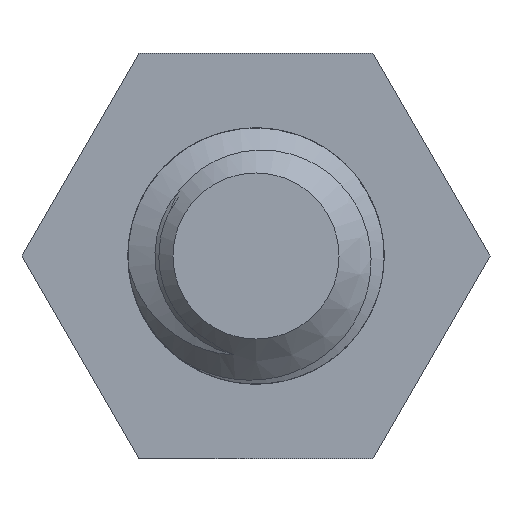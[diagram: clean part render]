
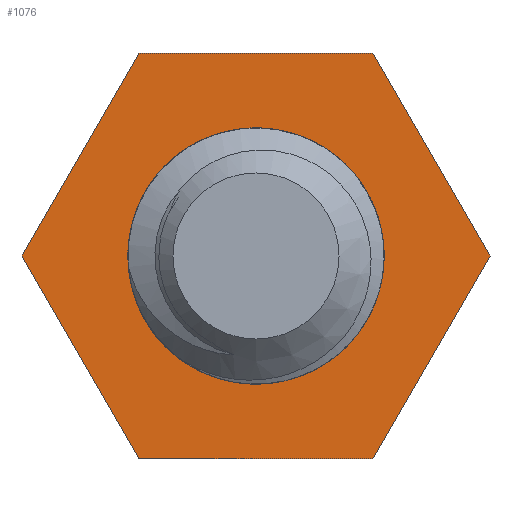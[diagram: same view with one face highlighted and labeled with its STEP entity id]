
A CAD part, front view. The second image highlights one B-rep face of the part: STEP entity #1076.
In plain terms, the highlighted planar face has unit normal (0, -1, 0).
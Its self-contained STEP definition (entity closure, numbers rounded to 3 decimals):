
#40 = CIRCLE ( 'NONE', #3227, 1.422 ) ;
#130 = VERTEX_POINT ( 'NONE', #2258 ) ;
#177 = ORIENTED_EDGE ( 'NONE', *, *, #3027, .F. ) ;
#189 = CIRCLE ( 'NONE', #1165, 1.422 ) ;
#235 = CARTESIAN_POINT ( 'NONE',  ( -1.299, 0., 2.25 ) ) ;
#296 = CARTESIAN_POINT ( 'NONE',  ( -1.247, 0., 0.685 ) ) ;
#380 = ORIENTED_EDGE ( 'NONE', *, *, #1316, .T. ) ;
#423 = VERTEX_POINT ( 'NONE', #2456 ) ;
#511 = EDGE_CURVE ( 'NONE', #2261, #664, #3026, .T. ) ;
#512 = DIRECTION ( 'NONE',  ( 1., 0., 0. ) ) ;
#605 = PLANE ( 'NONE',  #2092 ) ;
#632 = ORIENTED_EDGE ( 'NONE', *, *, #1329, .F. ) ;
#645 = VECTOR ( 'NONE', #745, 1000. ) ;
#664 = VERTEX_POINT ( 'NONE', #235 ) ;
#698 = DIRECTION ( 'NONE',  ( 0.5, 0., 0.866 ) ) ;
#745 = DIRECTION ( 'NONE',  ( -0.5, 0., 0.866 ) ) ;
#839 = CARTESIAN_POINT ( 'NONE',  ( 1.299, 0., -2.25 ) ) ;
#872 = EDGE_CURVE ( 'NONE', #3007, #1772, #40, .T. ) ;
#1076 = ADVANCED_FACE ( 'NONE', ( #2952, #1646 ), #605, .F. ) ;
#1085 = CARTESIAN_POINT ( 'NONE',  ( 0., 0., 0. ) ) ;
#1119 = CARTESIAN_POINT ( 'NONE',  ( 2.598, 0., 0. ) ) ;
#1128 = CARTESIAN_POINT ( 'NONE',  ( -2.598, 0., 0. ) ) ;
#1165 = AXIS2_PLACEMENT_3D ( 'NONE', #2429, #2967, #2414 ) ;
#1226 = EDGE_LOOP ( 'NONE', ( #177, #2469, #1988, #2789, #632, #3338 ) ) ;
#1314 = CARTESIAN_POINT ( 'NONE',  ( -1.299, 0., 2.25 ) ) ;
#1316 = EDGE_CURVE ( 'NONE', #1772, #3007, #189, .T. ) ;
#1329 = EDGE_CURVE ( 'NONE', #130, #2318, #3226, .T. ) ;
#1353 = DIRECTION ( 'NONE',  ( -1., 0., 0. ) ) ;
#1527 = VECTOR ( 'NONE', #512, 1000. ) ;
#1591 = VECTOR ( 'NONE', #698, 1000. ) ;
#1646 = FACE_OUTER_BOUND ( 'NONE', #1226, .T. ) ;
#1665 = EDGE_CURVE ( 'NONE', #2318, #3251, #1853, .T. ) ;
#1668 = DIRECTION ( 'NONE',  ( 0., 0., 1. ) ) ;
#1685 = CARTESIAN_POINT ( 'NONE',  ( 0., 0., 0. ) ) ;
#1701 = DIRECTION ( 'NONE',  ( 0., 1., 0. ) ) ;
#1725 = EDGE_CURVE ( 'NONE', #423, #130, #1836, .T. ) ;
#1740 = CARTESIAN_POINT ( 'NONE',  ( -2.598, 0., 0. ) ) ;
#1772 = VERTEX_POINT ( 'NONE', #2598 ) ;
#1787 = CARTESIAN_POINT ( 'NONE',  ( -1.299, 0., -2.25 ) ) ;
#1816 = CARTESIAN_POINT ( 'NONE',  ( 1.299, 0., 2.25 ) ) ;
#1836 = LINE ( 'NONE', #1816, #2688 ) ;
#1853 = LINE ( 'NONE', #839, #2953 ) ;
#1937 = DIRECTION ( 'NONE',  ( 0., 1., 0. ) ) ;
#1988 = ORIENTED_EDGE ( 'NONE', *, *, #3235, .F. ) ;
#2037 = CARTESIAN_POINT ( 'NONE',  ( -1.299, 0., -2.25 ) ) ;
#2092 = AXIS2_PLACEMENT_3D ( 'NONE', #1085, #1937, #2127 ) ;
#2127 = DIRECTION ( 'NONE',  ( 0., 0., 1. ) ) ;
#2156 = DIRECTION ( 'NONE',  ( -0.5, 0., -0.866 ) ) ;
#2258 = CARTESIAN_POINT ( 'NONE',  ( 2.598, 0., 0. ) ) ;
#2261 = VERTEX_POINT ( 'NONE', #1128 ) ;
#2318 = VERTEX_POINT ( 'NONE', #2422 ) ;
#2414 = DIRECTION ( 'NONE',  ( 0., 0., 1. ) ) ;
#2422 = CARTESIAN_POINT ( 'NONE',  ( 1.299, 0., -2.25 ) ) ;
#2429 = CARTESIAN_POINT ( 'NONE',  ( 0., 0., 0. ) ) ;
#2456 = CARTESIAN_POINT ( 'NONE',  ( 1.299, 0., 2.25 ) ) ;
#2469 = ORIENTED_EDGE ( 'NONE', *, *, #511, .F. ) ;
#2517 = VECTOR ( 'NONE', #2156, 1000. ) ;
#2593 = ORIENTED_EDGE ( 'NONE', *, *, #872, .T. ) ;
#2598 = CARTESIAN_POINT ( 'NONE',  ( -1.362, 0., -0.41 ) ) ;
#2688 = VECTOR ( 'NONE', #2882, 1000. ) ;
#2771 = EDGE_LOOP ( 'NONE', ( #380, #2593 ) ) ;
#2789 = ORIENTED_EDGE ( 'NONE', *, *, #1665, .F. ) ;
#2841 = LINE ( 'NONE', #1314, #1527 ) ;
#2882 = DIRECTION ( 'NONE',  ( 0.5, 0., -0.866 ) ) ;
#2952 = FACE_BOUND ( 'NONE', #2771, .T. ) ;
#2953 = VECTOR ( 'NONE', #1353, 1000. ) ;
#2967 = DIRECTION ( 'NONE',  ( 0., 1., 0. ) ) ;
#3007 = VERTEX_POINT ( 'NONE', #296 ) ;
#3026 = LINE ( 'NONE', #1740, #1591 ) ;
#3027 = EDGE_CURVE ( 'NONE', #664, #423, #2841, .T. ) ;
#3226 = LINE ( 'NONE', #1119, #2517 ) ;
#3227 = AXIS2_PLACEMENT_3D ( 'NONE', #1685, #1701, #1668 ) ;
#3235 = EDGE_CURVE ( 'NONE', #3251, #2261, #3334, .T. ) ;
#3251 = VERTEX_POINT ( 'NONE', #1787 ) ;
#3334 = LINE ( 'NONE', #2037, #645 ) ;
#3338 = ORIENTED_EDGE ( 'NONE', *, *, #1725, .F. ) ;
